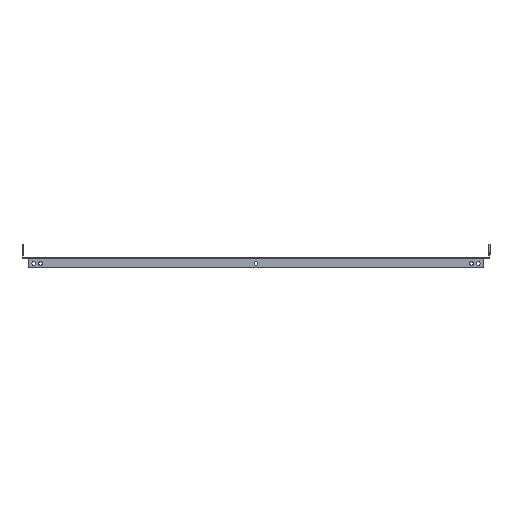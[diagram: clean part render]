
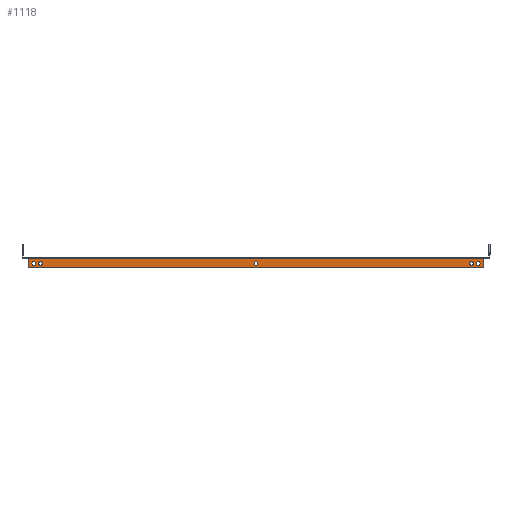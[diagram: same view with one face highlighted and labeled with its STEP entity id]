
A CAD part, left-side view. The second image highlights one B-rep face of the part: STEP entity #1118.
In plain terms, the highlighted planar face has unit normal (-1, 0, 0).
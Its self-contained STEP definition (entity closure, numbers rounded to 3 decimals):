
#1 = DIRECTION ( 'NONE',  ( 0., 0., -1. ) ) ;
#49 = AXIS2_PLACEMENT_3D ( 'NONE', #651, #696, #2015 ) ;
#51 = CIRCLE ( 'NONE', #4165, 3.5 ) ;
#66 = CARTESIAN_POINT ( 'NONE',  ( -350., 400., -6. ) ) ;
#109 = AXIS2_PLACEMENT_3D ( 'NONE', #1460, #2173, #1082 ) ;
#113 = AXIS2_PLACEMENT_3D ( 'NONE', #2202, #3571, #4258 ) ;
#139 = CARTESIAN_POINT ( 'NONE',  ( -350., -422.5, -0.6 ) ) ;
#162 = ORIENTED_EDGE ( 'NONE', *, *, #1768, .F. ) ;
#183 = ORIENTED_EDGE ( 'NONE', *, *, #1739, .T. ) ;
#203 = CARTESIAN_POINT ( 'NONE',  ( -350., -422.5, -14. ) ) ;
#278 = EDGE_CURVE ( 'NONE', #2721, #2700, #3647, .T. ) ;
#284 = CARTESIAN_POINT ( 'NONE',  ( -350., 0., -9.5 ) ) ;
#294 = CARTESIAN_POINT ( 'NONE',  ( -350., -412.5, -6. ) ) ;
#341 = VERTEX_POINT ( 'NONE', #1986 ) ;
#399 = CIRCLE ( 'NONE', #113, 3. ) ;
#443 = DIRECTION ( 'NONE',  ( 0., 0., -1. ) ) ;
#445 = CIRCLE ( 'NONE', #3616, 3.5 ) ;
#484 = ORIENTED_EDGE ( 'NONE', *, *, #3816, .F. ) ;
#496 = EDGE_CURVE ( 'NONE', #1279, #2557, #445, .T. ) ;
#510 = DIRECTION ( 'NONE',  ( 0., 0., 1. ) ) ;
#541 = CARTESIAN_POINT ( 'NONE',  ( -350., 412.5, -6. ) ) ;
#543 = AXIS2_PLACEMENT_3D ( 'NONE', #933, #3001, #547 ) ;
#547 = DIRECTION ( 'NONE',  ( 0., 0., -1. ) ) ;
#606 = DIRECTION ( 'NONE',  ( 0., 1., 0. ) ) ;
#648 = LINE ( 'NONE', #1284, #3135 ) ;
#651 = CARTESIAN_POINT ( 'NONE',  ( -350., 412.5, -9.5 ) ) ;
#696 = DIRECTION ( 'NONE',  ( -1., 0., 0. ) ) ;
#751 = VERTEX_POINT ( 'NONE', #3769 ) ;
#804 = CARTESIAN_POINT ( 'NONE',  ( -350., 422.5, -0.6 ) ) ;
#834 = EDGE_CURVE ( 'NONE', #751, #341, #886, .T. ) ;
#855 = EDGE_LOOP ( 'NONE', ( #2937, #1208 ) ) ;
#886 = CIRCLE ( 'NONE', #1664, 3.5 ) ;
#908 = DIRECTION ( 'NONE',  ( 0., 0., -1. ) ) ;
#933 = CARTESIAN_POINT ( 'NONE',  ( -350., -400., -9.5 ) ) ;
#935 = CARTESIAN_POINT ( 'NONE',  ( -350., -400., -6. ) ) ;
#1017 = CARTESIAN_POINT ( 'NONE',  ( -350., -412.5, -13. ) ) ;
#1065 = AXIS2_PLACEMENT_3D ( 'NONE', #3528, #2802, #443 ) ;
#1082 = DIRECTION ( 'NONE',  ( 0., 0., 1. ) ) ;
#1098 = DIRECTION ( 'NONE',  ( 0., 0., 1. ) ) ;
#1114 = VERTEX_POINT ( 'NONE', #1187 ) ;
#1118 = ADVANCED_FACE ( 'NONE', ( #1144, #1541, #2593, #2899, #3231, #1499 ), #1214, .T. ) ;
#1125 = ORIENTED_EDGE ( 'NONE', *, *, #3305, .T. ) ;
#1144 = FACE_BOUND ( 'NONE', #3222, .T. ) ;
#1180 = CARTESIAN_POINT ( 'NONE',  ( -350., 0., -9.5 ) ) ;
#1186 = DIRECTION ( 'NONE',  ( -1., 0., 0. ) ) ;
#1187 = CARTESIAN_POINT ( 'NONE',  ( -350., 412.5, -13. ) ) ;
#1208 = ORIENTED_EDGE ( 'NONE', *, *, #496, .F. ) ;
#1214 = PLANE ( 'NONE',  #1314 ) ;
#1244 = CARTESIAN_POINT ( 'NONE',  ( -350., -422.5, -17. ) ) ;
#1277 = ORIENTED_EDGE ( 'NONE', *, *, #278, .F. ) ;
#1279 = VERTEX_POINT ( 'NONE', #2000 ) ;
#1284 = CARTESIAN_POINT ( 'NONE',  ( -350., 422.5, -17. ) ) ;
#1314 = AXIS2_PLACEMENT_3D ( 'NONE', #2187, #3547, #4315 ) ;
#1315 = VERTEX_POINT ( 'NONE', #935 ) ;
#1348 = DIRECTION ( 'NONE',  ( 0., 1., 0. ) ) ;
#1360 = CARTESIAN_POINT ( 'NONE',  ( -350., -400., -13. ) ) ;
#1415 = VECTOR ( 'NONE', #908, 1000. ) ;
#1427 = CIRCLE ( 'NONE', #49, 3.5 ) ;
#1453 = DIRECTION ( 'NONE',  ( -1., 0., 0. ) ) ;
#1460 = CARTESIAN_POINT ( 'NONE',  ( -350., 412.5, -9.5 ) ) ;
#1478 = CARTESIAN_POINT ( 'NONE',  ( -350., 419.5, -14. ) ) ;
#1498 = CARTESIAN_POINT ( 'NONE',  ( -350., -412.5, -9.5 ) ) ;
#1499 = FACE_OUTER_BOUND ( 'NONE', #3713, .T. ) ;
#1534 = VERTEX_POINT ( 'NONE', #294 ) ;
#1541 = FACE_BOUND ( 'NONE', #2475, .T. ) ;
#1570 = CARTESIAN_POINT ( 'NONE',  ( -350., 422.5, 0. ) ) ;
#1596 = VERTEX_POINT ( 'NONE', #1360 ) ;
#1611 = CIRCLE ( 'NONE', #4140, 3. ) ;
#1664 = AXIS2_PLACEMENT_3D ( 'NONE', #1180, #3844, #2137 ) ;
#1679 = AXIS2_PLACEMENT_3D ( 'NONE', #1498, #1186, #2860 ) ;
#1687 = CIRCLE ( 'NONE', #2063, 3.5 ) ;
#1739 = EDGE_CURVE ( 'NONE', #2721, #2519, #1611, .T. ) ;
#1742 = CARTESIAN_POINT ( 'NONE',  ( -350., 400., -9.5 ) ) ;
#1768 = EDGE_CURVE ( 'NONE', #1534, #3183, #3925, .T. ) ;
#1850 = CARTESIAN_POINT ( 'NONE',  ( -350., 400., -9.5 ) ) ;
#1903 = ORIENTED_EDGE ( 'NONE', *, *, #2449, .T. ) ;
#1919 = ORIENTED_EDGE ( 'NONE', *, *, #3654, .F. ) ;
#1986 = CARTESIAN_POINT ( 'NONE',  ( -350., 0., -13. ) ) ;
#1991 = CIRCLE ( 'NONE', #109, 3.5 ) ;
#2000 = CARTESIAN_POINT ( 'NONE',  ( -350., 400., -13. ) ) ;
#2015 = DIRECTION ( 'NONE',  ( 0., 0., 1. ) ) ;
#2063 = AXIS2_PLACEMENT_3D ( 'NONE', #1850, #2907, #510 ) ;
#2137 = DIRECTION ( 'NONE',  ( 0., 0., -1. ) ) ;
#2173 = DIRECTION ( 'NONE',  ( -1., 0., 0. ) ) ;
#2187 = CARTESIAN_POINT ( 'NONE',  ( -350., 422.5, 0. ) ) ;
#2202 = CARTESIAN_POINT ( 'NONE',  ( -350., -419.5, -14. ) ) ;
#2240 = DIRECTION ( 'NONE',  ( 0., 0., 1. ) ) ;
#2247 = LINE ( 'NONE', #1244, #1415 ) ;
#2290 = VERTEX_POINT ( 'NONE', #139 ) ;
#2313 = CARTESIAN_POINT ( 'NONE',  ( -350., -400., -9.5 ) ) ;
#2342 = ORIENTED_EDGE ( 'NONE', *, *, #2469, .F. ) ;
#2353 = VECTOR ( 'NONE', #1348, 1000. ) ;
#2368 = ORIENTED_EDGE ( 'NONE', *, *, #3591, .F. ) ;
#2449 = EDGE_CURVE ( 'NONE', #2290, #2700, #3385, .T. ) ;
#2469 = EDGE_CURVE ( 'NONE', #3534, #1114, #1991, .T. ) ;
#2475 = EDGE_LOOP ( 'NONE', ( #162, #484 ) ) ;
#2491 = CIRCLE ( 'NONE', #543, 3.5 ) ;
#2519 = VERTEX_POINT ( 'NONE', #2866 ) ;
#2557 = VERTEX_POINT ( 'NONE', #66 ) ;
#2593 = FACE_BOUND ( 'NONE', #3274, .T. ) ;
#2642 = EDGE_CURVE ( 'NONE', #2557, #1279, #1687, .T. ) ;
#2645 = DIRECTION ( 'NONE',  ( 0., 0., -1. ) ) ;
#2700 = VERTEX_POINT ( 'NONE', #804 ) ;
#2721 = VERTEX_POINT ( 'NONE', #2949 ) ;
#2802 = DIRECTION ( 'NONE',  ( -1., 0., 0. ) ) ;
#2860 = DIRECTION ( 'NONE',  ( 0., 0., -1. ) ) ;
#2866 = CARTESIAN_POINT ( 'NONE',  ( -350., 419.5, -17. ) ) ;
#2899 = FACE_BOUND ( 'NONE', #855, .T. ) ;
#2907 = DIRECTION ( 'NONE',  ( -1., 0., 0. ) ) ;
#2936 = EDGE_CURVE ( 'NONE', #3377, #3520, #399, .T. ) ;
#2937 = ORIENTED_EDGE ( 'NONE', *, *, #2642, .F. ) ;
#2949 = CARTESIAN_POINT ( 'NONE',  ( -350., 422.5, -14. ) ) ;
#2954 = EDGE_LOOP ( 'NONE', ( #2342, #1919 ) ) ;
#3001 = DIRECTION ( 'NONE',  ( -1., 0., 0. ) ) ;
#3054 = CARTESIAN_POINT ( 'NONE',  ( -350., 422.5, -0.6 ) ) ;
#3057 = CIRCLE ( 'NONE', #4370, 3.5 ) ;
#3081 = DIRECTION ( 'NONE',  ( 1., 0., 0. ) ) ;
#3083 = EDGE_CURVE ( 'NONE', #1315, #1596, #2491, .T. ) ;
#3111 = DIRECTION ( 'NONE',  ( 0., 0., 1. ) ) ;
#3135 = VECTOR ( 'NONE', #606, 1000. ) ;
#3183 = VERTEX_POINT ( 'NONE', #1017 ) ;
#3220 = CARTESIAN_POINT ( 'NONE',  ( -350., -419.5, -17. ) ) ;
#3222 = EDGE_LOOP ( 'NONE', ( #1125, #3526 ) ) ;
#3231 = FACE_BOUND ( 'NONE', #2954, .T. ) ;
#3245 = VECTOR ( 'NONE', #2240, 1000. ) ;
#3274 = EDGE_LOOP ( 'NONE', ( #3615, #4257 ) ) ;
#3280 = DIRECTION ( 'NONE',  ( -1., 0., 0. ) ) ;
#3305 = EDGE_CURVE ( 'NONE', #341, #751, #3057, .T. ) ;
#3377 = VERTEX_POINT ( 'NONE', #3220 ) ;
#3380 = ORIENTED_EDGE ( 'NONE', *, *, #4019, .F. ) ;
#3385 = LINE ( 'NONE', #3054, #2353 ) ;
#3520 = VERTEX_POINT ( 'NONE', #203 ) ;
#3526 = ORIENTED_EDGE ( 'NONE', *, *, #834, .T. ) ;
#3528 = CARTESIAN_POINT ( 'NONE',  ( -350., -412.5, -9.5 ) ) ;
#3534 = VERTEX_POINT ( 'NONE', #541 ) ;
#3547 = DIRECTION ( 'NONE',  ( -1., 0., 0. ) ) ;
#3571 = DIRECTION ( 'NONE',  ( -1., 0., 0. ) ) ;
#3591 = EDGE_CURVE ( 'NONE', #2290, #3520, #2247, .T. ) ;
#3615 = ORIENTED_EDGE ( 'NONE', *, *, #3083, .F. ) ;
#3616 = AXIS2_PLACEMENT_3D ( 'NONE', #1742, #3826, #3111 ) ;
#3647 = LINE ( 'NONE', #1570, #3245 ) ;
#3654 = EDGE_CURVE ( 'NONE', #1114, #3534, #1427, .T. ) ;
#3713 = EDGE_LOOP ( 'NONE', ( #3380, #3748, #2368, #1903, #1277, #183 ) ) ;
#3748 = ORIENTED_EDGE ( 'NONE', *, *, #2936, .T. ) ;
#3769 = CARTESIAN_POINT ( 'NONE',  ( -350., 0., -6. ) ) ;
#3816 = EDGE_CURVE ( 'NONE', #3183, #1534, #4395, .T. ) ;
#3826 = DIRECTION ( 'NONE',  ( -1., 0., 0. ) ) ;
#3844 = DIRECTION ( 'NONE',  ( 1., 0., 0. ) ) ;
#3901 = EDGE_CURVE ( 'NONE', #1596, #1315, #51, .T. ) ;
#3925 = CIRCLE ( 'NONE', #1679, 3.5 ) ;
#4019 = EDGE_CURVE ( 'NONE', #3377, #2519, #648, .T. ) ;
#4140 = AXIS2_PLACEMENT_3D ( 'NONE', #1478, #1453, #1098 ) ;
#4165 = AXIS2_PLACEMENT_3D ( 'NONE', #2313, #3280, #2645 ) ;
#4257 = ORIENTED_EDGE ( 'NONE', *, *, #3901, .F. ) ;
#4258 = DIRECTION ( 'NONE',  ( 0., 0., 1. ) ) ;
#4315 = DIRECTION ( 'NONE',  ( 0., 0., 1. ) ) ;
#4370 = AXIS2_PLACEMENT_3D ( 'NONE', #284, #3081, #1 ) ;
#4395 = CIRCLE ( 'NONE', #1065, 3.5 ) ;
